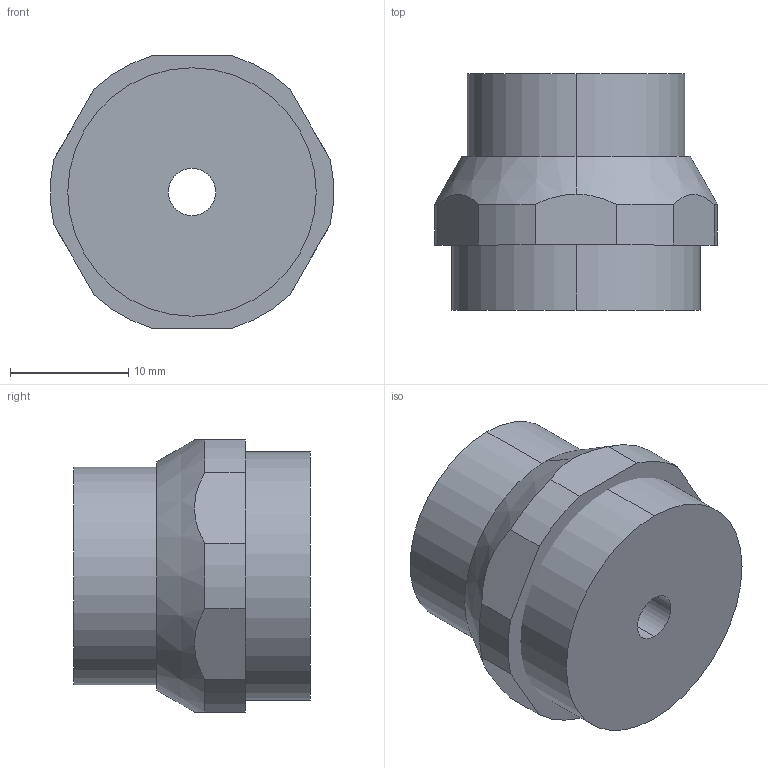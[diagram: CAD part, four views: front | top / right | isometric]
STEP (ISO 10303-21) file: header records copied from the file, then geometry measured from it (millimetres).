
FILE_DESCRIPTION (( 'STEP AP203' ), '1' );
FILE_NAME ('SILVENT_703_L_LP_STEP.STEP', '2019-11-11T10:04:26', ( '' ), ( '' ), 'SwSTEP 2.0', 'SolidWorks 2016', '' );
FILE_SCHEMA (( 'CONFIG_CONTROL_DESIGN' ));
Length unit declared in the file: millimetre
Products named in the file (2): SILVENT_703_L_LP_STEP
Bounding box: 23.93 x 20 x 23 mm (x, y, z)
Volume: 6835.1 mm3; surface area: 3379.3 mm2
Topology: 2 solids, 2 shells, 36 faces, 84 edges, 56 vertices
Faces by surface type: cylinder 20, plane 14, cone 2
Entity records: 1275 total; most frequent: CARTESIAN_POINT 258, DIRECTION 194, ORIENTED_EDGE 168, EDGE_CURVE 84, AXIS2_PLACEMENT_3D 80, VERTEX_POINT 56, EDGE_LOOP 44, CIRCLE 42
